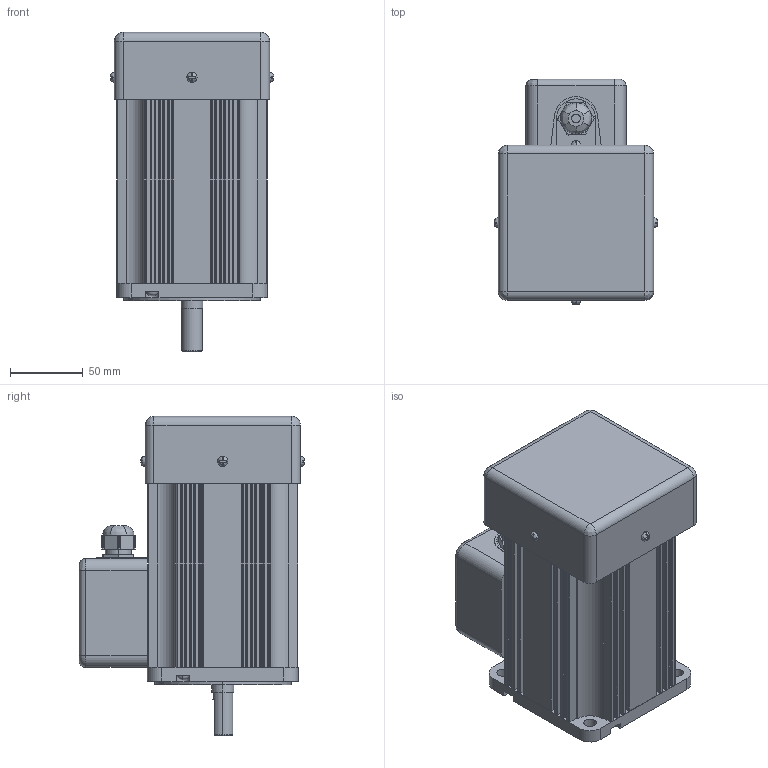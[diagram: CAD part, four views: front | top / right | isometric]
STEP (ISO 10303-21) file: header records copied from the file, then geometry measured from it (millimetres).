
FILE_DESCRIPTION (( 'STEP AP203' ), '1' );
FILE_NAME ('10IDD6-400F-T.STEP', '2018-09-14T07:23:34', ( '' ), ( '' ), 'SwSTEP 2.0', 'SolidWorks 2012', '' );
FILE_SCHEMA (( 'CONFIG_CONTROL_DESIGN' ));
Length unit declared in the file: millimetre
Products named in the file (1): 10IDD6-400F-T
Bounding box: 112.99 x 155.49 x 220 mm (x, y, z)
Volume: 1719104.5 mm3; surface area: 189488.2 mm2
Topology: 6 solids, 6 shells, 511 faces, 1339 edges, 862 vertices
Faces by surface type: plane 278, cylinder 196, bspline 24, torus 10, cone 3
Entity records: 16267 total; most frequent: CARTESIAN_POINT 3575, ORIENTED_EDGE 2662, DIRECTION 2620, EDGE_CURVE 1331, AXIS2_PLACEMENT_3D 901, VERTEX_POINT 862, VECTOR 818, LINE 818
